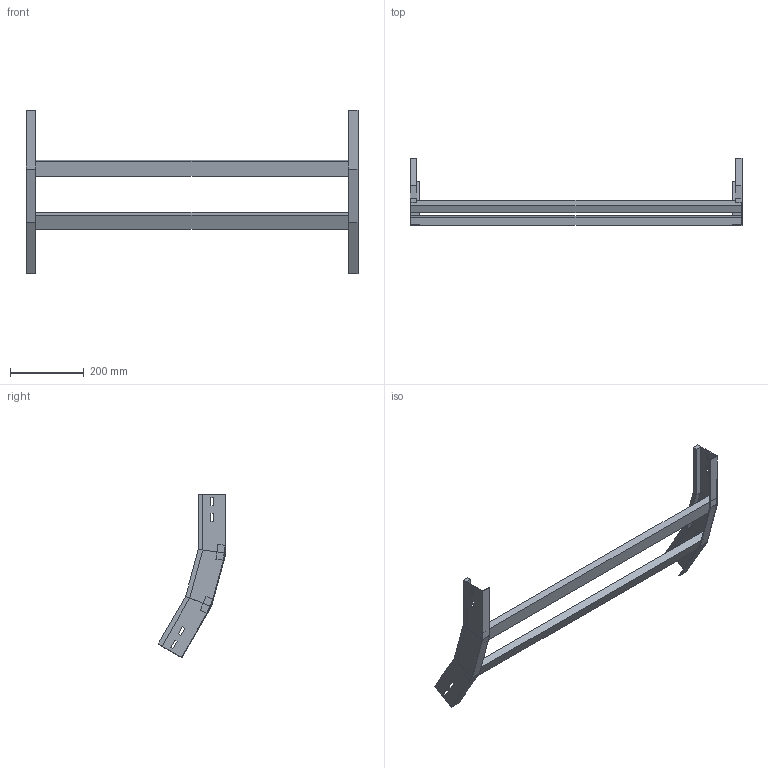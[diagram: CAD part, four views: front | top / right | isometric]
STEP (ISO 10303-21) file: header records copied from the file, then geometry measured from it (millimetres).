
FILE_DESCRIPTION (( 'STEP AP214' ), '1' );
FILE_NAME ('B2X32B5C900XX.step', '2025-03-20T10:03:42', ( '' ), ( '' ), 'SwSTEP 2.0', 'SolidWorks 2023', '' );
FILE_SCHEMA (( 'AUTOMOTIVE_DESIGN' ));
Length unit declared in the file: millimetre
Products named in the file (3): B2X32B5C900XX; LONGH.SALITA_30°_H75_R500; TRAVERSINO_900
Assembly tree (4 placements, depth 2):
  B2X32B5C900XX
    LONGH.SALITA_30°_H75_R500  x2
    TRAVERSINO_900  x2
Bounding box: 900 x 183.88 x 443.86 mm (x, y, z)
Volume: 1797919.5 mm3; surface area: 433672.3 mm2
Topology: 4 solids, 4 shells, 96 faces, 232 edges, 144 vertices
Faces by surface type: plane 96
Entity records: 1472 total; most frequent: CARTESIAN_POINT 243, ORIENTED_EDGE 232, DIRECTION 226, LINE 116, VECTOR 116, EDGE_CURVE 116, VERTEX_POINT 72, EDGE_LOOP 56
